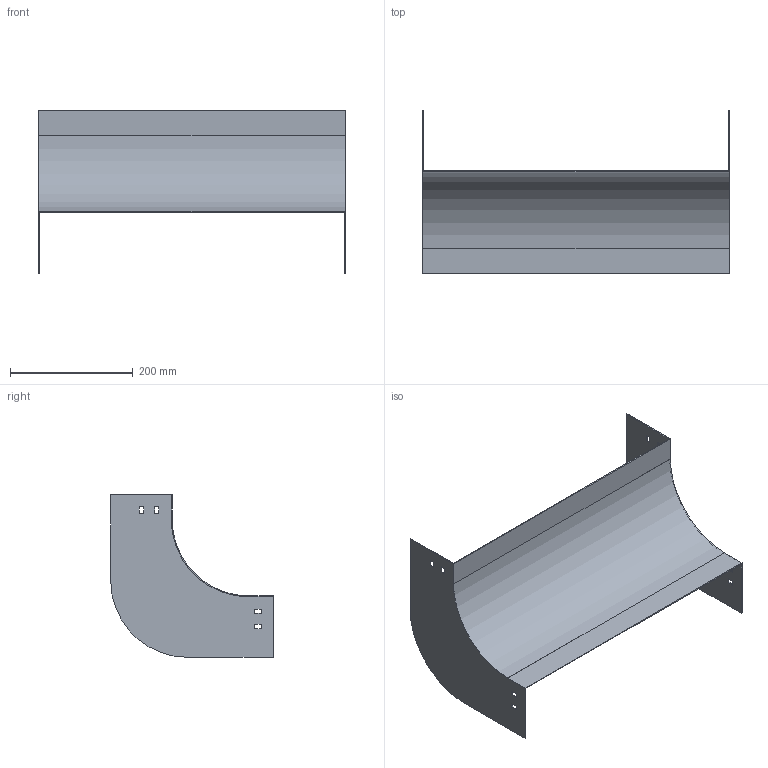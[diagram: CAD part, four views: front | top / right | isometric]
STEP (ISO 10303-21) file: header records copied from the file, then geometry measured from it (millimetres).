
FILE_DESCRIPTION (( 'STEP AP214' ), '1' );
FILE_NAME ('D9_501.step', '2025-07-16T09:09:10', ( '' ), ( '' ), 'SwSTEP 2.0', 'SolidWorks 2023', '' );
FILE_SCHEMA (( 'AUTOMOTIVE_DESIGN' ));
Length unit declared in the file: millimetre
Products named in the file (1): D9_501
Bounding box: 500 x 265 x 265 mm (x, y, z)
Volume: 335056.9 mm3; surface area: 450667 mm2
Topology: 1 solids, 1 shells, 50 faces, 144 edges, 96 vertices
Faces by surface type: plane 46, cylinder 4
Entity records: 1671 total; most frequent: CARTESIAN_POINT 291, ORIENTED_EDGE 288, DIRECTION 254, EDGE_CURVE 144, VECTOR 136, LINE 136, VERTEX_POINT 96, EDGE_LOOP 66
